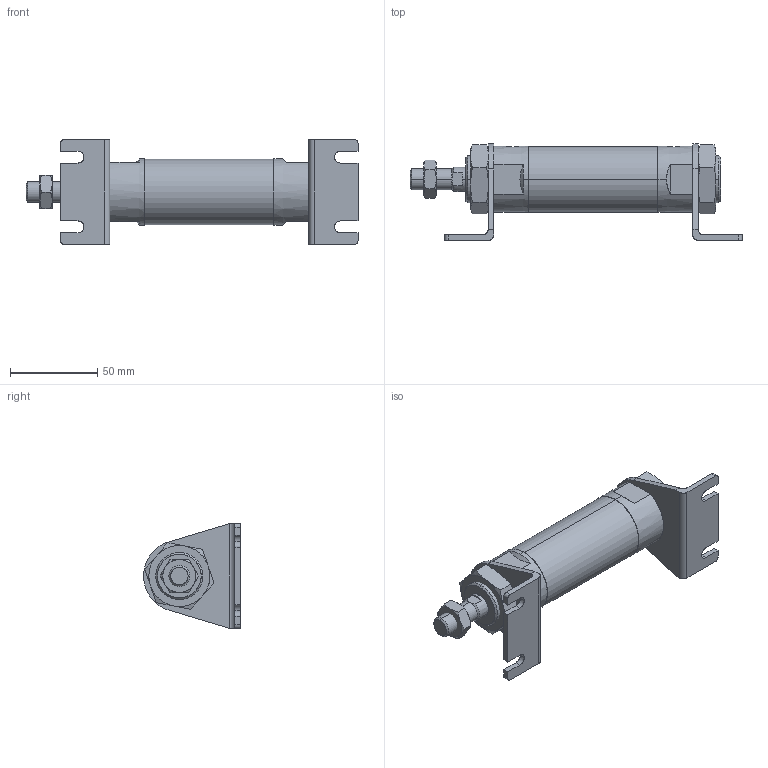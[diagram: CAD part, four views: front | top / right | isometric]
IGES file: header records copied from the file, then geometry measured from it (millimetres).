
Start section: SolidWorks IGES file using analytic representation for surfaces
Global section: file name: C:\Users\Toshiba\Desktop\J#2-32-25-L.IGS; native system: SolidWorks 2014; preprocessor: SolidWorks 2014; author: Toshiba; date: 160310.085625; units: millimetre
Bounding box: 190.2 x 55.5 x 60 mm (x, y, z)
Surface area: 43241.9 mm2 (no closed solid volume)
Topology: 0 solids, 0 shells, 170 faces, 2728 edges, 2724 vertices
Faces by surface type: bspline 107, revolution 63
